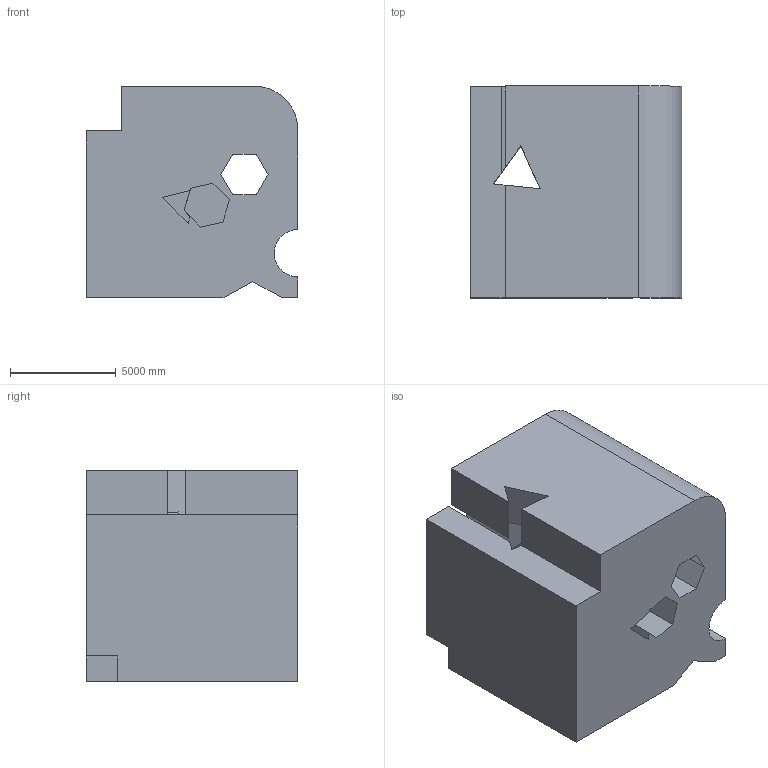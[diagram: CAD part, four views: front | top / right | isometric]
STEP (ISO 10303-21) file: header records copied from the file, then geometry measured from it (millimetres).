
FILE_DESCRIPTION (( 'STEP AP203' ), '1' );
FILE_NAME ('1937.STEP', '2022-08-23T09:42:00', ( 'user' ), ( '' ), 'SwSTEP 2.0', 'SolidWorks 2021', '' );
FILE_SCHEMA (( 'CONFIG_CONTROL_DESIGN' ));
Length unit declared in the file: centimetre
Products named in the file (1): 1937
Bounding box: 10000 x 10000 x 10000 mm (x, y, z)
Volume: 841886575350.2 mm3; surface area: 766497781.3 mm2
Topology: 1 solids, 1 shells, 43 faces, 123 edges, 82 vertices
Faces by surface type: plane 41, cylinder 2
Entity records: 1466 total; most frequent: CARTESIAN_POINT 249, ORIENTED_EDGE 246, DIRECTION 215, EDGE_CURVE 123, LINE 119, VECTOR 119, VERTEX_POINT 82, AXIS2_PLACEMENT_3D 48
